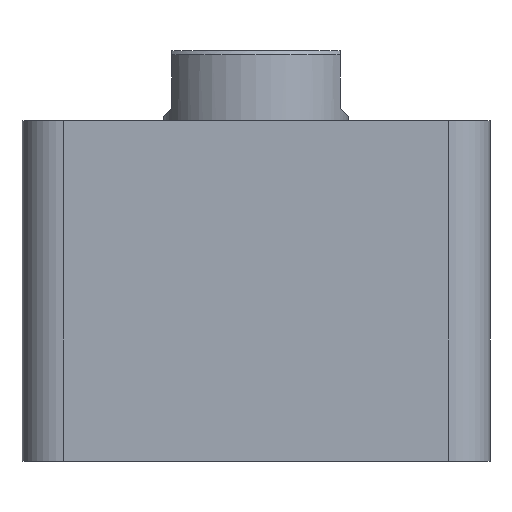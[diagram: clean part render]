
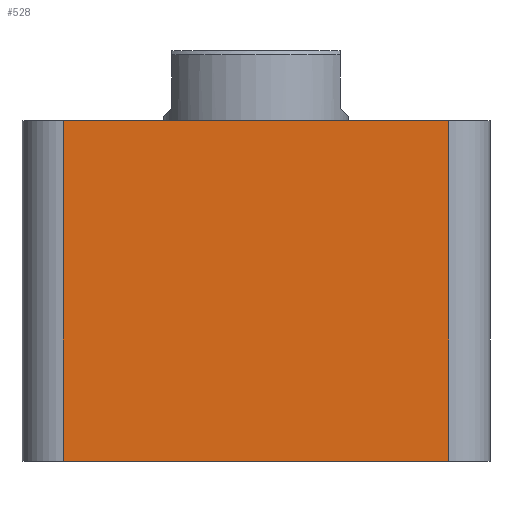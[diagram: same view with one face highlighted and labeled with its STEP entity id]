
A CAD part, front view. The second image highlights one B-rep face of the part: STEP entity #528.
In plain terms, the highlighted planar face has unit normal (0, -1, 0).
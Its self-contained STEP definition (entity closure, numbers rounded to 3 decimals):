
#14 = DIRECTION ( 'NONE',  ( 0., 0., 1. ) ) ;
#15 = DIRECTION ( 'NONE',  ( 0., 1., 0. ) ) ;
#18 = PLANE ( 'NONE',  #1351 ) ;
#20 = CARTESIAN_POINT ( 'NONE',  ( -57., -57., 83. ) ) ;
#331 = CARTESIAN_POINT ( 'NONE',  ( 47., -57., 83. ) ) ;
#332 = CARTESIAN_POINT ( 'NONE',  ( -47., -57., 83. ) ) ;
#334 = CARTESIAN_POINT ( 'NONE',  ( 47., -57., 0. ) ) ;
#528 = ADVANCED_FACE ( 'NONE', ( #2230 ), #18, .F. ) ;
#649 = VERTEX_POINT ( 'NONE', #708 ) ;
#675 = ORIENTED_EDGE ( 'NONE', *, *, #1284, .T. ) ;
#676 = ORIENTED_EDGE ( 'NONE', *, *, #1283, .F. ) ;
#677 = ORIENTED_EDGE ( 'NONE', *, *, #1282, .T. ) ;
#708 = CARTESIAN_POINT ( 'NONE',  ( -47., -57., 0. ) ) ;
#1282 = EDGE_CURVE ( 'NONE', #1944, #649, #1612, .T. ) ;
#1283 = EDGE_CURVE ( 'NONE', #1944, #1943, #1613, .T. ) ;
#1284 = EDGE_CURVE ( 'NONE', #1946, #1943, #1616, .T. ) ;
#1285 = EDGE_CURVE ( 'NONE', #649, #1946, #1618, .T. ) ;
#1351 = AXIS2_PLACEMENT_3D ( 'NONE', #20, #15, #14 ) ;
#1435 = DIRECTION ( 'NONE',  ( 0., 0., -1. ) ) ;
#1451 = CARTESIAN_POINT ( 'NONE',  ( -57., -57., 83. ) ) ;
#1452 = CARTESIAN_POINT ( 'NONE',  ( -47., -57., 83. ) ) ;
#1456 = DIRECTION ( 'NONE',  ( 1., 0., 0. ) ) ;
#1457 = CARTESIAN_POINT ( 'NONE',  ( 47., -57., 83. ) ) ;
#1458 = DIRECTION ( 'NONE',  ( 0., 0., 1. ) ) ;
#1459 = CARTESIAN_POINT ( 'NONE',  ( -57., -57., 0. ) ) ;
#1460 = DIRECTION ( 'NONE',  ( 1., 0., 0. ) ) ;
#1612 = LINE ( 'NONE', #1452, #1615 ) ;
#1613 = LINE ( 'NONE', #1451, #1617 ) ;
#1615 = VECTOR ( 'NONE', #1435, 1000. ) ;
#1616 = LINE ( 'NONE', #1457, #1619 ) ;
#1617 = VECTOR ( 'NONE', #1456, 1000. ) ;
#1618 = LINE ( 'NONE', #1459, #1621 ) ;
#1619 = VECTOR ( 'NONE', #1458, 1000. ) ;
#1621 = VECTOR ( 'NONE', #1460, 1000. ) ;
#1943 = VERTEX_POINT ( 'NONE', #331 ) ;
#1944 = VERTEX_POINT ( 'NONE', #332 ) ;
#1946 = VERTEX_POINT ( 'NONE', #334 ) ;
#2230 = FACE_OUTER_BOUND ( 'NONE', #2550, .T. ) ;
#2290 = ORIENTED_EDGE ( 'NONE', *, *, #1285, .T. ) ;
#2550 = EDGE_LOOP ( 'NONE', ( #2290, #675, #676, #677 ) ) ;
